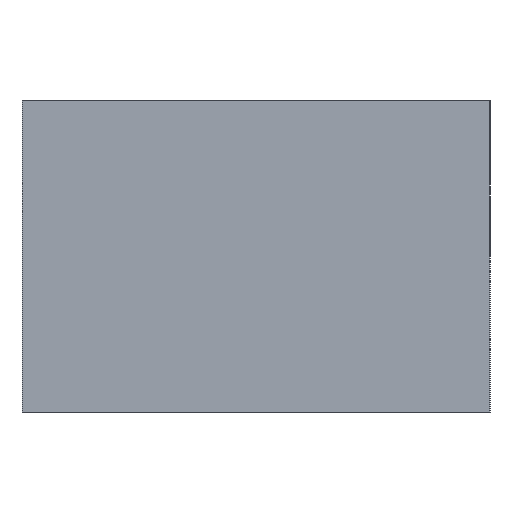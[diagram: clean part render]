
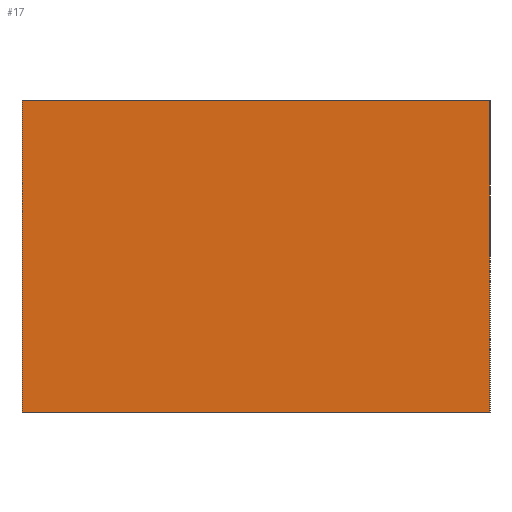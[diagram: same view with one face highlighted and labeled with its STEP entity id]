
A CAD part, left-side view. The second image highlights one B-rep face of the part: STEP entity #17.
In plain terms, the highlighted planar face has unit normal (-1, 0, 0).
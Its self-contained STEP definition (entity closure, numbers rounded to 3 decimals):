
#17 = ADVANCED_FACE('',(#18),#32,.F.);
#18 = FACE_BOUND('',#19,.F.);
#19 = EDGE_LOOP('',(#20,#55,#83,#111));
#20 = ORIENTED_EDGE('',*,*,#21,.F.);
#21 = EDGE_CURVE('',#22,#24,#26,.T.);
#22 = VERTEX_POINT('',#23);
#23 = CARTESIAN_POINT('',(0.,0.,0.));
#24 = VERTEX_POINT('',#25);
#25 = CARTESIAN_POINT('',(0.,0.,8.));
#26 = SURFACE_CURVE('',#27,(#31,#43),.PCURVE_S1.);
#27 = LINE('',#28,#29);
#28 = CARTESIAN_POINT('',(0.,0.,0.));
#29 = VECTOR('',#30,1.);
#30 = DIRECTION('',(0.,0.,1.));
#31 = PCURVE('',#32,#37);
#32 = PLANE('',#33);
#33 = AXIS2_PLACEMENT_3D('',#34,#35,#36);
#34 = CARTESIAN_POINT('',(0.,0.,0.));
#35 = DIRECTION('',(1.,0.,0.));
#36 = DIRECTION('',(0.,0.,1.));
#37 = DEFINITIONAL_REPRESENTATION('',(#38),#42);
#38 = LINE('',#39,#40);
#39 = CARTESIAN_POINT('',(0.,0.));
#40 = VECTOR('',#41,1.);
#41 = DIRECTION('',(1.,0.));
#42 = ( GEOMETRIC_REPRESENTATION_CONTEXT(2) 
PARAMETRIC_REPRESENTATION_CONTEXT() REPRESENTATION_CONTEXT('2D SPACE',''
  ) );
#43 = PCURVE('',#44,#49);
#44 = PLANE('',#45);
#45 = AXIS2_PLACEMENT_3D('',#46,#47,#48);
#46 = CARTESIAN_POINT('',(0.,0.,0.));
#47 = DIRECTION('',(0.,1.,0.));
#48 = DIRECTION('',(0.,0.,1.));
#49 = DEFINITIONAL_REPRESENTATION('',(#50),#54);
#50 = LINE('',#51,#52);
#51 = CARTESIAN_POINT('',(0.,0.));
#52 = VECTOR('',#53,1.);
#53 = DIRECTION('',(1.,0.));
#54 = ( GEOMETRIC_REPRESENTATION_CONTEXT(2) 
PARAMETRIC_REPRESENTATION_CONTEXT() REPRESENTATION_CONTEXT('2D SPACE',''
  ) );
#55 = ORIENTED_EDGE('',*,*,#56,.T.);
#56 = EDGE_CURVE('',#22,#57,#59,.T.);
#57 = VERTEX_POINT('',#58);
#58 = CARTESIAN_POINT('',(0.,12.,0.));
#59 = SURFACE_CURVE('',#60,(#64,#71),.PCURVE_S1.);
#60 = LINE('',#61,#62);
#61 = CARTESIAN_POINT('',(0.,0.,0.));
#62 = VECTOR('',#63,1.);
#63 = DIRECTION('',(0.,1.,0.));
#64 = PCURVE('',#32,#65);
#65 = DEFINITIONAL_REPRESENTATION('',(#66),#70);
#66 = LINE('',#67,#68);
#67 = CARTESIAN_POINT('',(0.,0.));
#68 = VECTOR('',#69,1.);
#69 = DIRECTION('',(0.,-1.));
#70 = ( GEOMETRIC_REPRESENTATION_CONTEXT(2) 
PARAMETRIC_REPRESENTATION_CONTEXT() REPRESENTATION_CONTEXT('2D SPACE',''
  ) );
#71 = PCURVE('',#72,#77);
#72 = PLANE('',#73);
#73 = AXIS2_PLACEMENT_3D('',#74,#75,#76);
#74 = CARTESIAN_POINT('',(0.,0.,0.));
#75 = DIRECTION('',(0.,0.,1.));
#76 = DIRECTION('',(1.,0.,0.));
#77 = DEFINITIONAL_REPRESENTATION('',(#78),#82);
#78 = LINE('',#79,#80);
#79 = CARTESIAN_POINT('',(0.,0.));
#80 = VECTOR('',#81,1.);
#81 = DIRECTION('',(0.,1.));
#82 = ( GEOMETRIC_REPRESENTATION_CONTEXT(2) 
PARAMETRIC_REPRESENTATION_CONTEXT() REPRESENTATION_CONTEXT('2D SPACE',''
  ) );
#83 = ORIENTED_EDGE('',*,*,#84,.T.);
#84 = EDGE_CURVE('',#57,#85,#87,.T.);
#85 = VERTEX_POINT('',#86);
#86 = CARTESIAN_POINT('',(0.,12.,8.));
#87 = SURFACE_CURVE('',#88,(#92,#99),.PCURVE_S1.);
#88 = LINE('',#89,#90);
#89 = CARTESIAN_POINT('',(0.,12.,0.));
#90 = VECTOR('',#91,1.);
#91 = DIRECTION('',(0.,0.,1.));
#92 = PCURVE('',#32,#93);
#93 = DEFINITIONAL_REPRESENTATION('',(#94),#98);
#94 = LINE('',#95,#96);
#95 = CARTESIAN_POINT('',(0.,-12.));
#96 = VECTOR('',#97,1.);
#97 = DIRECTION('',(1.,0.));
#98 = ( GEOMETRIC_REPRESENTATION_CONTEXT(2) 
PARAMETRIC_REPRESENTATION_CONTEXT() REPRESENTATION_CONTEXT('2D SPACE',''
  ) );
#99 = PCURVE('',#100,#105);
#100 = PLANE('',#101);
#101 = AXIS2_PLACEMENT_3D('',#102,#103,#104);
#102 = CARTESIAN_POINT('',(0.,12.,0.));
#103 = DIRECTION('',(0.,1.,0.));
#104 = DIRECTION('',(0.,0.,1.));
#105 = DEFINITIONAL_REPRESENTATION('',(#106),#110);
#106 = LINE('',#107,#108);
#107 = CARTESIAN_POINT('',(0.,0.));
#108 = VECTOR('',#109,1.);
#109 = DIRECTION('',(1.,0.));
#110 = ( GEOMETRIC_REPRESENTATION_CONTEXT(2) 
PARAMETRIC_REPRESENTATION_CONTEXT() REPRESENTATION_CONTEXT('2D SPACE',''
  ) );
#111 = ORIENTED_EDGE('',*,*,#112,.F.);
#112 = EDGE_CURVE('',#24,#85,#113,.T.);
#113 = SURFACE_CURVE('',#114,(#118,#125),.PCURVE_S1.);
#114 = LINE('',#115,#116);
#115 = CARTESIAN_POINT('',(0.,0.,8.));
#116 = VECTOR('',#117,1.);
#117 = DIRECTION('',(0.,1.,0.));
#118 = PCURVE('',#32,#119);
#119 = DEFINITIONAL_REPRESENTATION('',(#120),#124);
#120 = LINE('',#121,#122);
#121 = CARTESIAN_POINT('',(8.,0.));
#122 = VECTOR('',#123,1.);
#123 = DIRECTION('',(0.,-1.));
#124 = ( GEOMETRIC_REPRESENTATION_CONTEXT(2) 
PARAMETRIC_REPRESENTATION_CONTEXT() REPRESENTATION_CONTEXT('2D SPACE',''
  ) );
#125 = PCURVE('',#126,#131);
#126 = PLANE('',#127);
#127 = AXIS2_PLACEMENT_3D('',#128,#129,#130);
#128 = CARTESIAN_POINT('',(0.,0.,8.));
#129 = DIRECTION('',(0.,0.,1.));
#130 = DIRECTION('',(1.,0.,0.));
#131 = DEFINITIONAL_REPRESENTATION('',(#132),#136);
#132 = LINE('',#133,#134);
#133 = CARTESIAN_POINT('',(0.,0.));
#134 = VECTOR('',#135,1.);
#135 = DIRECTION('',(0.,1.));
#136 = ( GEOMETRIC_REPRESENTATION_CONTEXT(2) 
PARAMETRIC_REPRESENTATION_CONTEXT() REPRESENTATION_CONTEXT('2D SPACE',''
  ) );
